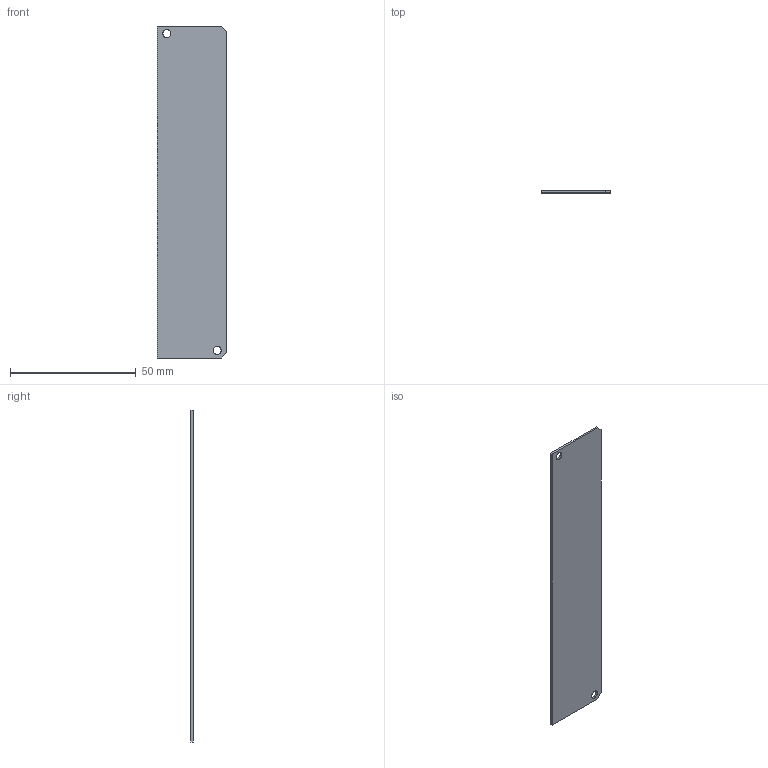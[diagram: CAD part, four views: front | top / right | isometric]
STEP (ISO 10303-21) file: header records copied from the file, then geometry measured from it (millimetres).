
FILE_DESCRIPTION (( 'STEP AP214' ), '1' );
FILE_NAME ('MLBX2-00-120-2-POLARIZER-V.STEP', '2021-11-05T07:23:53', ( '' ), ( '' ), 'SwSTEP 2.0', 'SolidWorks 2021', '' );
FILE_SCHEMA (( 'AUTOMOTIVE_DESIGN' ));
Length unit declared in the file: millimetre
Products named in the file (1): MLBX2-00-120-2-POLARIZER-V
Bounding box: 27.5 x 0.8 x 132 mm (x, y, z)
Volume: 2887.9 mm3; surface area: 7489.2 mm2
Topology: 1 solids, 1 shells, 12 faces, 30 edges, 20 vertices
Faces by surface type: plane 8, cylinder 4
Entity records: 470 total; most frequent: DIRECTION 64, CARTESIAN_POINT 63, ORIENTED_EDGE 60, EDGE_CURVE 30, VECTOR 22, LINE 22, AXIS2_PLACEMENT_3D 21, VERTEX_POINT 20
